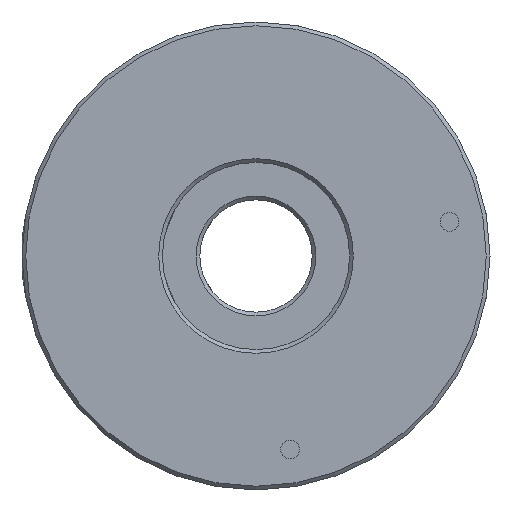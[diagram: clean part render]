
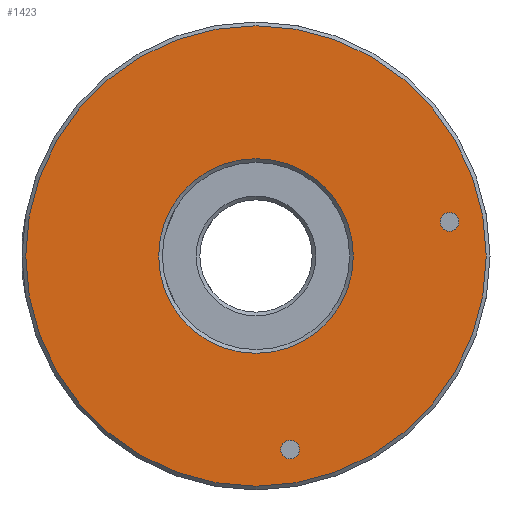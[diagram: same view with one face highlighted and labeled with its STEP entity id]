
A CAD part, front view. The second image highlights one B-rep face of the part: STEP entity #1423.
In plain terms, the highlighted planar face has unit normal (0, -1, 0) as drawn and (0, 1, 0) by its records, which use the part's own axes.
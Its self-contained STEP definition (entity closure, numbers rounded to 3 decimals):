
#36 = EDGE_LOOP ( 'NONE', ( #1294 ) ) ;
#53 = FACE_BOUND ( 'NONE', #1497, .T. ) ;
#63 = CARTESIAN_POINT ( 'NONE',  ( 0., 13., 0. ) ) ;
#140 = DIRECTION ( 'NONE',  ( 0., 0., -1. ) ) ;
#215 = AXIS2_PLACEMENT_3D ( 'NONE', #4789, #2660, #375 ) ;
#375 = DIRECTION ( 'NONE',  ( 0., 0., -1. ) ) ;
#494 = ORIENTED_EDGE ( 'NONE', *, *, #3651, .F. ) ;
#787 = VERTEX_POINT ( 'NONE', #1087 ) ;
#795 = FACE_OUTER_BOUND ( 'NONE', #2341, .T. ) ;
#796 = DIRECTION ( 'NONE',  ( 0., 1., 0. ) ) ;
#922 = AXIS2_PLACEMENT_3D ( 'NONE', #3883, #1719, #140 ) ;
#928 = EDGE_LOOP ( 'NONE', ( #1124 ) ) ;
#946 = VERTEX_POINT ( 'NONE', #4638 ) ;
#1003 = DIRECTION ( 'NONE',  ( 0., 1., 0. ) ) ;
#1049 = CARTESIAN_POINT ( 'NONE',  ( 0., 13., -10.5 ) ) ;
#1087 = CARTESIAN_POINT ( 'NONE',  ( 0., 13., -12.3 ) ) ;
#1093 = CIRCLE ( 'NONE', #1889, 5.2 ) ;
#1124 = ORIENTED_EDGE ( 'NONE', *, *, #2211, .T. ) ;
#1191 = FACE_BOUND ( 'NONE', #36, .T. ) ;
#1294 = ORIENTED_EDGE ( 'NONE', *, *, #3766, .F. ) ;
#1423 = ADVANCED_FACE ( 'NONE', ( #1191, #53, #795, #3389 ), #3326, .F. ) ;
#1497 = EDGE_LOOP ( 'NONE', ( #494 ) ) ;
#1719 = DIRECTION ( 'NONE',  ( 0., 1., 0. ) ) ;
#1889 = AXIS2_PLACEMENT_3D ( 'NONE', #63, #4161, #4116 ) ;
#1954 = AXIS2_PLACEMENT_3D ( 'NONE', #2558, #796, #4426 ) ;
#2211 = EDGE_CURVE ( 'NONE', #946, #946, #1093, .T. ) ;
#2341 = EDGE_LOOP ( 'NONE', ( #3952 ) ) ;
#2558 = CARTESIAN_POINT ( 'NONE',  ( -10.5, 13., 0. ) ) ;
#2561 = CIRCLE ( 'NONE', #922, 12.3 ) ;
#2580 = CARTESIAN_POINT ( 'NONE',  ( -10.5, 13., 0.5 ) ) ;
#2660 = DIRECTION ( 'NONE',  ( 0., -1., 0. ) ) ;
#3176 = CIRCLE ( 'NONE', #1954, 0.5 ) ;
#3316 = CARTESIAN_POINT ( 'NONE',  ( 0., 13., -10. ) ) ;
#3326 = PLANE ( 'NONE',  #215 ) ;
#3389 = FACE_BOUND ( 'NONE', #928, .T. ) ;
#3610 = DIRECTION ( 'NONE',  ( 0., 0., 1. ) ) ;
#3651 = EDGE_CURVE ( 'NONE', #4044, #4044, #3771, .T. ) ;
#3766 = EDGE_CURVE ( 'NONE', #4775, #4775, #3176, .T. ) ;
#3771 = CIRCLE ( 'NONE', #4534, 0.5 ) ;
#3883 = CARTESIAN_POINT ( 'NONE',  ( 0., 13., 0. ) ) ;
#3952 = ORIENTED_EDGE ( 'NONE', *, *, #4013, .T. ) ;
#4013 = EDGE_CURVE ( 'NONE', #787, #787, #2561, .T. ) ;
#4044 = VERTEX_POINT ( 'NONE', #3316 ) ;
#4116 = DIRECTION ( 'NONE',  ( 0., 0., -1. ) ) ;
#4161 = DIRECTION ( 'NONE',  ( 0., -1., 0. ) ) ;
#4426 = DIRECTION ( 'NONE',  ( 0., 0., 1. ) ) ;
#4534 = AXIS2_PLACEMENT_3D ( 'NONE', #1049, #1003, #3610 ) ;
#4638 = CARTESIAN_POINT ( 'NONE',  ( 0., 13., -5.2 ) ) ;
#4775 = VERTEX_POINT ( 'NONE', #2580 ) ;
#4789 = CARTESIAN_POINT ( 'NONE',  ( -5., 13., 0. ) ) ;
